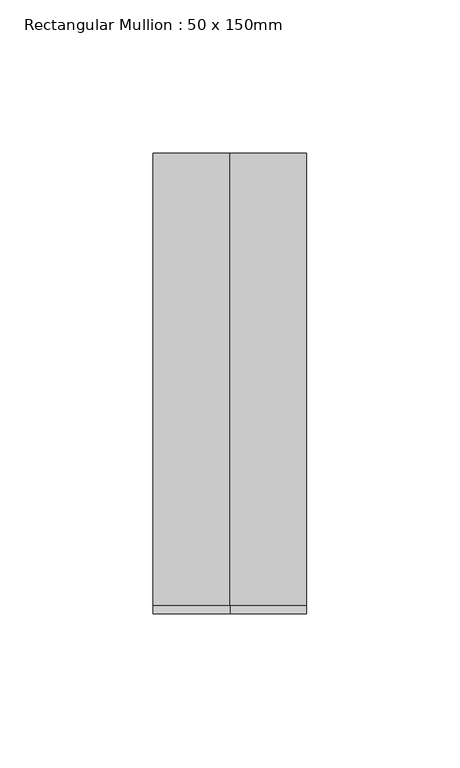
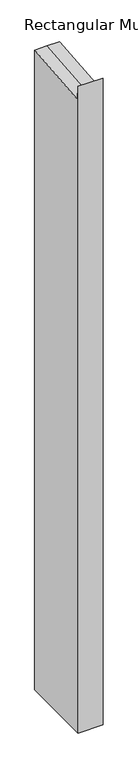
"""IFC4 building model written with IfcOpenShell, lengths in millimetres: member geometry, Rectangular Mullion : 50 x 150mm."""

from ifc_helpers import new_model, si_unit, origin, place, context, project, spatial, faceted_brep, source, transform, mapped, element, save


def rectangular_mullion_50_x_150mm_92b6558f(model_context):
    return source(origin(), model_context, "Body", "Brep", [
        faceted_brep([(25.0, 75.0, -1341.0969058), (25.0, -75.0, -1341.0969058), (-25.0, -75.0, -1341.0969058), (-25.0, 75.0, -1341.0969058), (-25.0, 75.0, 7.003801), (0.0, 75.0, 7.003801), (25.0, 75.0, 7.003801), (-25.0, -75.0, 21.4499323), (-25.0, -72.3032509, -6.9724867), (25.0, -75.0, 21.4499323), (0.0, -75.0, 21.4499323), (25.0, -72.3032509, -6.9724867), (0.0, -72.3032509, -6.9724867)], [[[0, 1, 2, 3]], [[4, 5, 6, 0, 3]], [[7, 8, 4, 3, 2]], [[9, 10, 7, 2, 1]], [[6, 11, 9, 1, 0]], [[6, 5, 12, 11]], [[5, 4, 8, 12]], [[8, 7, 10, 12]], [[10, 9, 11, 12]]]),
    ])


if __name__ == "__main__":
    model = new_model("IFC4")
    model_context = context("Model", 3, world=origin())
    ifc_project = project(units=[si_unit("LENGTHUNIT", "METRE", prefix="MILLI")], contexts=[model_context])
    site = spatial("IfcSite", under=ifc_project)
    building = spatial("IfcBuilding", under=site)
    placement = place(None, origin())
    rectangular_mullion_50_x_150mm_shape = rectangular_mullion_50_x_150mm_92b6558f(model_context)
    element("IfcMember", 1, ObjectType="Rectangular Mullion : 50 x 150mm", at=placement, inside=building, context=model_context, shape_type="MappedRepresentation", body=[
        mapped(rectangular_mullion_50_x_150mm_shape, transform((0.0, 0.0, 0.0), x_axis=(1.0, 0.0, 0.0), y_axis=(0.0, 1.0, 0.0), z_axis=(0.0, 0.0, 1.0))),
    ])
    save(model, "model.ifc")
